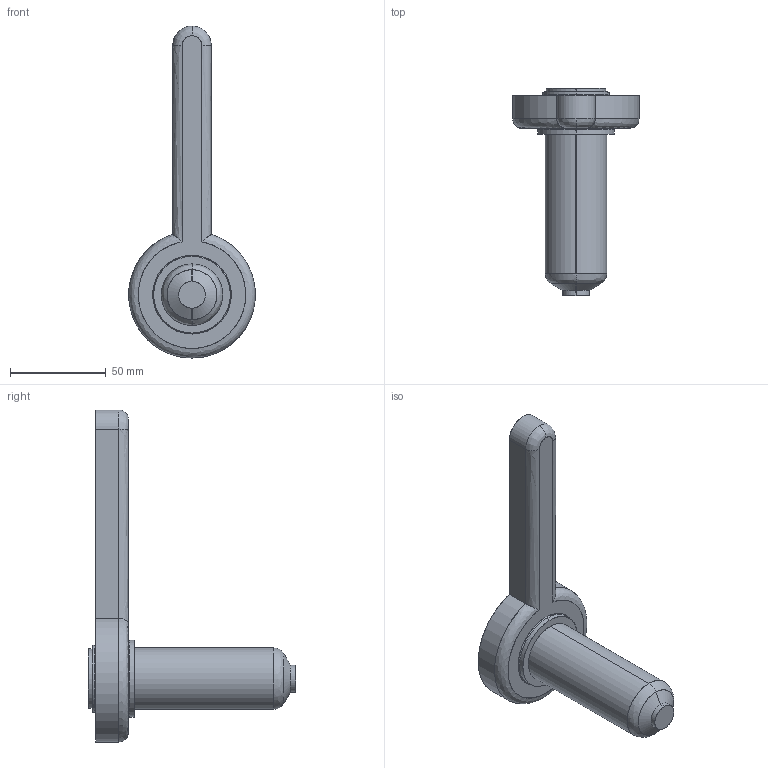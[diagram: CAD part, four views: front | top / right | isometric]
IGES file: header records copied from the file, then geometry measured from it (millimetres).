
Start section: SolidWorks IGES file using analytic representation for surfaces
Global section: file name: C:\Documents and Settings\ws-20\Desktop\TEMPORANEA\Sede UGBE4002-S-A C-84 L-106 P-0.IGS; native system: SolidWorks 2012; preprocessor: SolidWorks 2012; author: ws-20; date: 120306.141548; units: millimetre
Bounding box: 65.98 x 108.21 x 173 mm (x, y, z)
Surface area: 25757.6 mm2 (no closed solid volume)
Topology: 0 solids, 0 shells, 34 faces, 786 edges, 786 vertices
Faces by surface type: revolution 21, bspline 13
